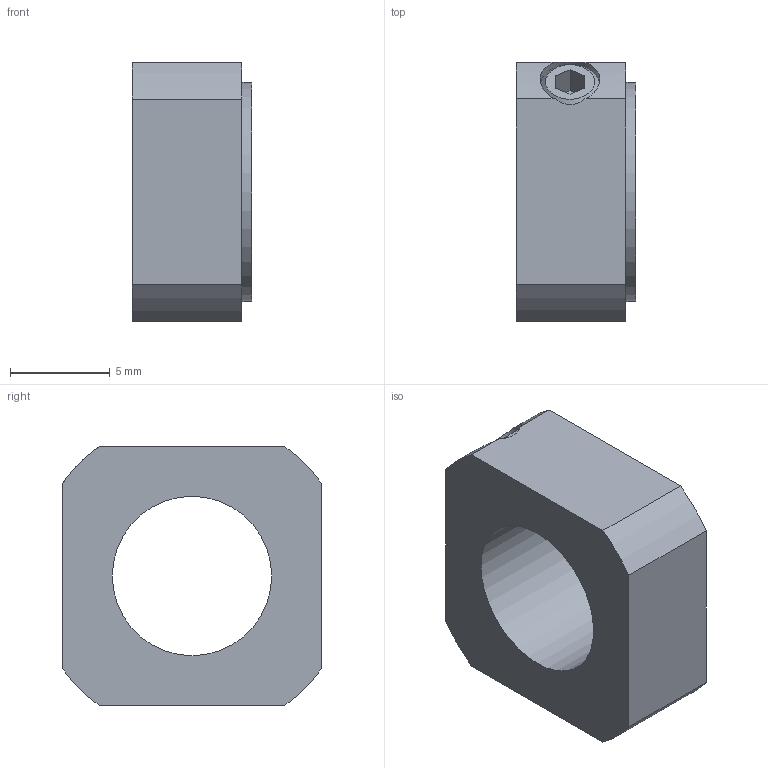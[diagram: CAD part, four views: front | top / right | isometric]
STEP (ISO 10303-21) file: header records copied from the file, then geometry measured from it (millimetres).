
FILE_DESCRIPTION((''),'2;1');
FILE_NAME('D:\製品 (図面)\カタログ用3D\ネジ関連\STEP形式\LNM\LNM8×0.75.stp','2010-06-02T14:34:41',('Tsuchiya'),(''),'Autodesk Inventor 10','Autodesk Inventor 10','');
FILE_SCHEMA(('AUTOMOTIVE_DESIGN { 1 0 10303 214 1 1 1 1 }'));
Length unit declared in the file: millimetre
Products named in the file (1): LNM8×0.75
Bounding box: 6 x 13 x 13 mm (x, y, z)
Volume: 638.1 mm3; surface area: 668.1 mm2
Topology: 1 solids, 1 shells, 24 faces, 61 edges, 41 vertices
Faces by surface type: plane 15, cylinder 7, cone 1, bspline 1
Full cylindrical faces by diameter (mm): 3 x1, 11 x1
Entity records: 780 total; most frequent: CARTESIAN_POINT 186, DIRECTION 116, ORIENTED_EDGE 112, EDGE_CURVE 56, AXIS2_PLACEMENT_3D 40, VERTEX_POINT 40, VECTOR 36, LINE 36
